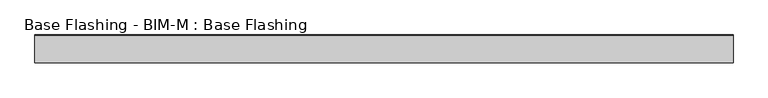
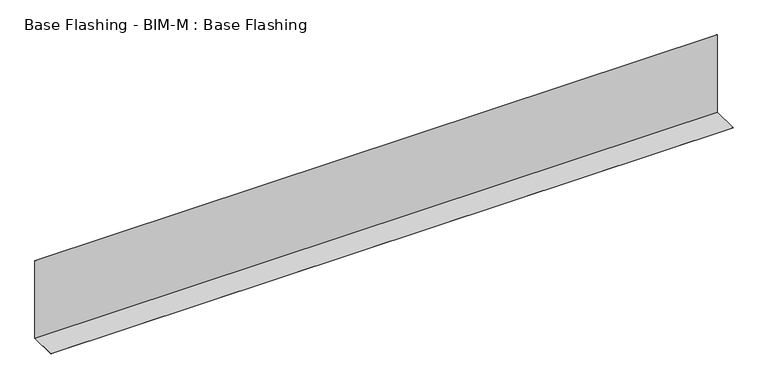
"""IFC4 building model written with IfcOpenShell, lengths in millimetres: proxy geometry, Base Flashing - BIM-M : Base Flashing."""

import ifcopenshell
import ifcopenshell.guid

model = None  # the IFC model being written
_history = None  # IfcOwnerHistory: only IFC2X3 demands one
_inside = {}  # id of a spatial element -> (the spatial element, [elements in it])
_under = {}  # id of a project, library or spatial element -> (it, [spatial elements below it])
_declared = {}  # id of a project -> (the project, [libraries it declares])
_typed = {}  # id of a type object -> (the type object, [elements of that type])
_made_of = {}  # id of a material, layer set ... -> (it, [elements and type objects made of it])


def new_model(schema):
    """Start an empty IFC model of exactly this schema.

    Asked for "IFC4X3", IfcOpenShell would pick the latest addendum, in which some entities
    have other attributes; the version numbers below select the first issue.
    IFC2X3 requires an IfcOwnerHistory on every rooted entity: one is made here for all.
    """
    global model, _history
    if schema == "IFC4X3":
        model = ifcopenshell.file(schema_version=(4, 3, 0, 0))
    else:
        model = ifcopenshell.file(schema=schema)
    _inside.clear()
    _under.clear()
    _declared.clear()
    _typed.clear()
    _made_of.clear()
    _history = None
    if model.schema == "IFC2X3":
        org = make("IfcOrganization", Name="unknown")
        user = make(
            "IfcPersonAndOrganization",
            ThePerson=make("IfcPerson", FamilyName="unknown"),
            TheOrganization=org,
        )
        app = make(
            "IfcApplication",
            ApplicationDeveloper=org,
            Version="unknown",
            ApplicationFullName="unknown",
            ApplicationIdentifier="unknown",
        )
        _history = make(
            "IfcOwnerHistory",
            OwningUser=user,
            OwningApplication=app,
            ChangeAction="ADDED",
            CreationDate=0,
        )
    return model


def make(cls, **values):
    """One entity of the class cls with the attributes given. An attribute that is None is left unset."""
    return model.create_entity(
        cls, **{name: value for name, value in values.items() if value is not None}
    )


def rooted(cls, **values):
    """An entity with a GlobalId (a new one), such as an element, a storey or a relation."""
    return make(cls, GlobalId=ifcopenshell.guid.new(), OwnerHistory=_history, **values)


def si_unit(unit_type, name, prefix=None):
    """IfcSIUnit, for example si_unit("LENGTHUNIT", "METRE", prefix="MILLI")."""
    return make("IfcSIUnit", UnitType=unit_type, Prefix=prefix, Name=name)


def assignment(units):
    """IfcUnitAssignment: the units of a project."""
    return None if units is None else make("IfcUnitAssignment", Units=units)


def point(xyz):
    """IfcCartesianPoint."""
    return None if xyz is None else make("IfcCartesianPoint", Coordinates=xyz)


def direction(xyz):
    """IfcDirection."""
    return None if xyz is None else make("IfcDirection", DirectionRatios=xyz)


def frame(location, z_axis=None, x_axis=None):
    """IfcAxis2Placement3D, a coordinate frame: its origin and axes. An axis left out is left unset."""
    return make(
        "IfcAxis2Placement3D",
        Location=point(location),
        Axis=direction(z_axis),
        RefDirection=direction(x_axis),
    )


def origin():
    """The frame at (0, 0, 0) with its axes left unset."""
    return frame((0.0, 0.0, 0.0))


def place(relative_to, where):
    """IfcLocalPlacement: puts the frame where relative to a parent placement (None: the world)."""
    return make(
        "IfcLocalPlacement", PlacementRelTo=relative_to, RelativePlacement=where
    )


def context(
    kind, dimensions, precision=None, world=None, true_north=None, identifier=None
):
    """IfcGeometricRepresentationContext, for example the 3D "Model" context."""
    return make(
        "IfcGeometricRepresentationContext",
        ContextIdentifier=identifier,
        ContextType=kind,
        CoordinateSpaceDimension=dimensions,
        Precision=precision,
        WorldCoordinateSystem=world,
        TrueNorth=true_north,
    )


def project(units=None, contexts=None):
    """IfcProject with its units and contexts."""
    return rooted(
        "IfcProject",
        Name="project",
        RepresentationContexts=contexts,
        UnitsInContext=assignment(units),
    )


def spatial(cls, under=None, at=None, **own):
    """A site, building, storey or space (cls), placed at a placement, below another one or the project."""
    s = rooted(cls, ObjectPlacement=at, **own)
    if under is not None:
        _under.setdefault(under.id(), (under, []))[1].append(s)
    return s


def polyline(points):
    """IfcPolyline through the points."""
    return make("IfcPolyline", Points=[point(p) for p in points])


def outline(outer, holes=None, kind="AREA"):
    """IfcArbitraryClosedProfileDef: a profile drawn as a closed curve; with holes, ...WithVoids."""
    if holes is None:
        return make("IfcArbitraryClosedProfileDef", ProfileType=kind, OuterCurve=outer)
    return make(
        "IfcArbitraryProfileDefWithVoids",
        ProfileType=kind,
        OuterCurve=outer,
        InnerCurves=holes,
    )


def extrude(swept, where, along, depth):
    """IfcExtrudedAreaSolid: the profile swept, set in the frame where, extruded along a direction by depth."""
    return make(
        "IfcExtrudedAreaSolid",
        SweptArea=swept,
        Position=where,
        ExtrudedDirection=direction(along),
        Depth=depth,
    )


def shape(context_of_items, identifier, shape_type, items):
    """IfcShapeRepresentation: the items that make up one representation, for example the "Body"."""
    return make(
        "IfcShapeRepresentation",
        ContextOfItems=context_of_items,
        RepresentationIdentifier=identifier,
        RepresentationType=shape_type,
        Items=items,
    )


def source(mapping_origin, context_of_items, identifier, shape_type, items):
    """IfcRepresentationMap: a shape defined once, which mapped items show again and again."""
    return make(
        "IfcRepresentationMap",
        MappingOrigin=mapping_origin,
        MappedRepresentation=shape(context_of_items, identifier, shape_type, items),
    )


def transform(
    local_origin,
    x_axis=None,
    y_axis=None,
    z_axis=None,
    scale=None,
    scale2=None,
    scale3=None,
    uniform=True,
):
    """IfcCartesianTransformationOperator3D, or its non-uniform kind. x_axis, y_axis, z_axis: its Axis1, 2, 3."""
    if uniform:
        return make(
            "IfcCartesianTransformationOperator3D",
            Axis1=direction(x_axis),
            Axis2=direction(y_axis),
            LocalOrigin=point(local_origin),
            Scale=scale,
            Axis3=direction(z_axis),
        )
    return make(
        "IfcCartesianTransformationOperator3DnonUniform",
        Axis1=direction(x_axis),
        Axis2=direction(y_axis),
        LocalOrigin=point(local_origin),
        Scale=scale,
        Axis3=direction(z_axis),
        Scale2=scale2,
        Scale3=scale3,
    )


def mapped(mapping_source, mapping_target):
    """IfcMappedItem: shows the shape of a source again, moved by a transform."""
    return make(
        "IfcMappedItem", MappingSource=mapping_source, MappingTarget=mapping_target
    )


def made_of(thing, what):
    """Note that an element or type object is made of a material, layer set ...; save() writes the relation."""
    if what is not None:
        _made_of.setdefault(what.id(), (what, []))[1].append(thing)
    return thing


def element(
    cls,
    number,
    at=None,
    inside=None,
    cuts=None,
    type_object=None,
    material=None,
    context=None,
    identifier="Body",
    shape_type=None,
    held_by="IfcProductDefinitionShape",
    body=None,
    shapes=None,
    **own,
):
    """One element of the class cls, such as IfcWall. Its Tag is "e" and its number.

    at: its placement. inside: the storey or other place that contains it. cuts: it is an
    opening in that element (IfcRelVoidsElement). A single representation is given by context,
    identifier, shape_type and body (its items); several are given by shapes. held_by: the class
    of the entity that holds the representations. save() writes the other relations.
    """
    e = rooted(cls, Tag="e%d" % number, ObjectPlacement=at, **own)
    if body is not None:
        shapes = [shape(context, identifier, shape_type, body)]
    if shapes is not None:
        e.Representation = make(held_by, Representations=shapes)
    if inside is not None:
        _inside.setdefault(inside.id(), (inside, []))[1].append(e)
    if cuts is not None:
        rooted(
            "IfcRelVoidsElement", RelatingBuildingElement=cuts, RelatedOpeningElement=e
        )
    if type_object is not None:
        _typed.setdefault(type_object.id(), (type_object, []))[1].append(e)
    return made_of(e, material)


def aggregate(whole, parts):
    """IfcRelAggregates: a whole, such as a stair, and the parts it consists of."""
    return rooted("IfcRelAggregates", RelatingObject=whole, RelatedObjects=parts)


def save(model, path):
    """Write the relations noted so far, then the file.

    IfcRelAggregates (storeys below a building ...), IfcRelContainedInSpatialStructure (elements
    in a storey), IfcRelDefinesByType, IfcRelAssociatesMaterial and IfcRelDeclares: one each for
    every whole, place, type object, material and project.
    """
    for whole, parts in _under.values():
        aggregate(whole, parts)
    for where, things in _inside.values():
        rooted(
            "IfcRelContainedInSpatialStructure",
            RelatedElements=things,
            RelatingStructure=where,
        )
    for kind, things in _typed.values():
        rooted("IfcRelDefinesByType", RelatedObjects=things, RelatingType=kind)
    for what, things in _made_of.values():
        rooted("IfcRelAssociatesMaterial", RelatedObjects=things, RelatingMaterial=what)
    for by, libraries in _declared.values():
        rooted("IfcRelDeclares", RelatingContext=by, RelatedDefinitions=libraries)
    model.write(path)


def base_flashing_bim_m_base_flashing_7bcebab9(model_context):
    return source(origin(), model_context, "Body", "SweptSolid", [
        extrude(outline(polyline([(0.0, 581.025), (0.0, 0.0), (-193.675, 0.0), (-193.675, 0.79375), (-0.79375, 0.79375), (-0.79375, 581.025), (0.0, 581.025)])), frame((-2424.3161348, 0.0, 0.0), z_axis=(1.0, 0.0, 0.0), x_axis=(0.0, 1.0, 0.0)), (0.0, 0.0, 1.0), 4848.6322696),
    ])


if __name__ == "__main__":
    model = new_model("IFC4")
    model_context = context("Model", 3, world=origin())
    ifc_project = project(units=[si_unit("LENGTHUNIT", "METRE", prefix="MILLI")], contexts=[model_context])
    site = spatial("IfcSite", under=ifc_project)
    building = spatial("IfcBuilding", under=site)
    placement = place(None, origin())
    base_flashing_bim_m_base_flashing_shape = base_flashing_bim_m_base_flashing_7bcebab9(model_context)
    element("IfcBuildingElementProxy", 1, Name="Base Flashing - BIM-M : Base Flashing", ObjectType="Base Flashing - BIM-M : Base Flashing", at=placement, inside=building, context=model_context, shape_type="MappedRepresentation", body=[
        mapped(base_flashing_bim_m_base_flashing_shape, transform((0.0, 0.0, 0.0), x_axis=(1.0, 0.0, 0.0), y_axis=(0.0, 1.0, 0.0), z_axis=(0.0, 0.0, 1.0))),
    ])
    save(model, "model.ifc")
